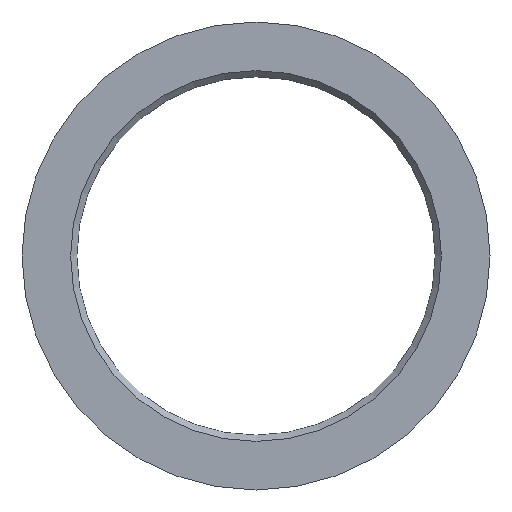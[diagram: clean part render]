
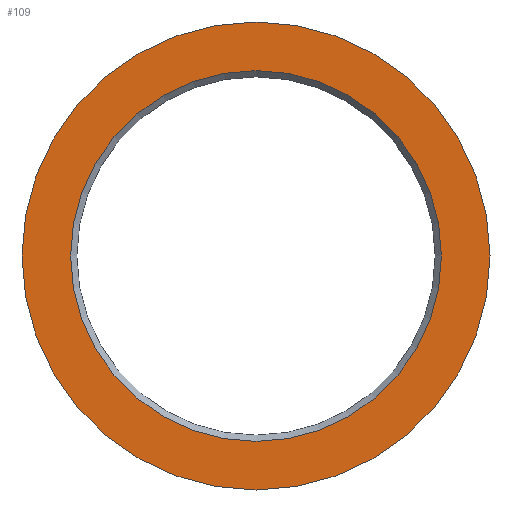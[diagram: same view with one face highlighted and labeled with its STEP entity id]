
A CAD part, front view. The second image highlights one B-rep face of the part: STEP entity #109.
In plain terms, the highlighted planar face has unit normal (0, -1, 0).
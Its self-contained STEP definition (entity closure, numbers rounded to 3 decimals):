
#16=FACE_BOUND('',#34,.T.);
#18=PLANE('',#144);
#25=FACE_OUTER_BOUND('',#33,.T.);
#33=EDGE_LOOP('',(#90));
#34=EDGE_LOOP('',(#91));
#51=CIRCLE('',#143,29.55);
#52=CIRCLE('',#145,37.3);
#59=VERTEX_POINT('',#202);
#60=VERTEX_POINT('',#206);
#70=EDGE_CURVE('',#59,#59,#51,.T.);
#71=EDGE_CURVE('',#60,#60,#52,.T.);
#90=ORIENTED_EDGE('',*,*,#71,.F.);
#91=ORIENTED_EDGE('',*,*,#70,.F.);
#109=ADVANCED_FACE('',(#25,#16),#18,.F.);
#143=AXIS2_PLACEMENT_3D('',#204,#171,#172);
#144=AXIS2_PLACEMENT_3D('',#205,#173,#174);
#145=AXIS2_PLACEMENT_3D('',#207,#175,#176);
#171=DIRECTION('center_axis',(0.,-1.,0.));
#172=DIRECTION('ref_axis',(1.,0.,0.));
#173=DIRECTION('center_axis',(0.,1.,0.));
#174=DIRECTION('ref_axis',(0.,0.,1.));
#175=DIRECTION('center_axis',(0.,1.,0.));
#176=DIRECTION('ref_axis',(-1.,0.,0.));
#202=CARTESIAN_POINT('',(-29.55,0.,0.));
#204=CARTESIAN_POINT('Origin',(0.,0.,0.));
#205=CARTESIAN_POINT('Origin',(0.,0.,0.));
#206=CARTESIAN_POINT('',(-37.3,0.,0.));
#207=CARTESIAN_POINT('Origin',(0.,0.,0.));
